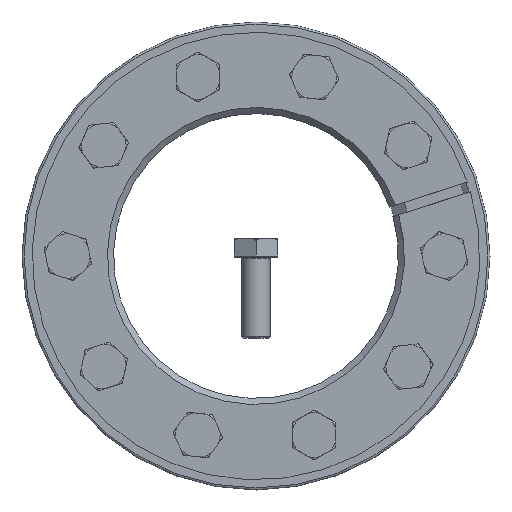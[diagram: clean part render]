
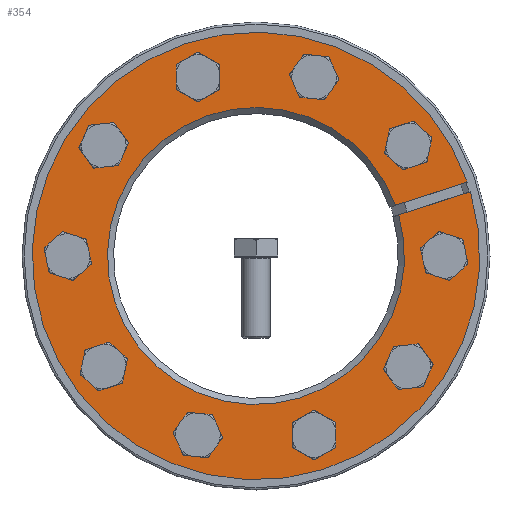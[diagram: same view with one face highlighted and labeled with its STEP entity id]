
A CAD part, front view. The second image highlights one B-rep face of the part: STEP entity #354.
In plain terms, the highlighted planar face has unit normal (0, -1, 0).
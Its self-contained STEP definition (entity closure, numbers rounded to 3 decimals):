
#354 = ADVANCED_FACE( '', ( #582, #583, #584, #585, #586, #587, #588, #589, #590, #591, #592 ), #593, .F. );
#582 = FACE_BOUND( '', #732, .T. );
#583 = FACE_BOUND( '', #733, .T. );
#584 = FACE_BOUND( '', #734, .T. );
#585 = FACE_BOUND( '', #735, .T. );
#586 = FACE_BOUND( '', #736, .T. );
#587 = FACE_OUTER_BOUND( '', #737, .T. );
#588 = FACE_BOUND( '', #738, .T. );
#589 = FACE_BOUND( '', #739, .T. );
#590 = FACE_BOUND( '', #740, .T. );
#591 = FACE_BOUND( '', #741, .T. );
#592 = FACE_BOUND( '', #742, .T. );
#593 = PLANE( '', #743 );
#732 = EDGE_LOOP( '', ( #991 ) );
#733 = EDGE_LOOP( '', ( #992 ) );
#734 = EDGE_LOOP( '', ( #993 ) );
#735 = EDGE_LOOP( '', ( #994 ) );
#736 = EDGE_LOOP( '', ( #995 ) );
#737 = EDGE_LOOP( '', ( #996, #997, #998, #999 ) );
#738 = EDGE_LOOP( '', ( #1000 ) );
#739 = EDGE_LOOP( '', ( #1001 ) );
#740 = EDGE_LOOP( '', ( #1002 ) );
#741 = EDGE_LOOP( '', ( #1003 ) );
#742 = EDGE_LOOP( '', ( #1004 ) );
#743 = AXIS2_PLACEMENT_3D( '', #1005, #1006, #1007 );
#991 = ORIENTED_EDGE( '', *, *, #1364, .T. );
#992 = ORIENTED_EDGE( '', *, *, #1365, .T. );
#993 = ORIENTED_EDGE( '', *, *, #1366, .T. );
#994 = ORIENTED_EDGE( '', *, *, #1367, .T. );
#995 = ORIENTED_EDGE( '', *, *, #1363, .T. );
#996 = ORIENTED_EDGE( '', *, *, #1346, .T. );
#997 = ORIENTED_EDGE( '', *, *, #1349, .T. );
#998 = ORIENTED_EDGE( '', *, *, #1357, .T. );
#999 = ORIENTED_EDGE( '', *, *, #1341, .F. );
#1000 = ORIENTED_EDGE( '', *, *, #1368, .T. );
#1001 = ORIENTED_EDGE( '', *, *, #1369, .T. );
#1002 = ORIENTED_EDGE( '', *, *, #1370, .T. );
#1003 = ORIENTED_EDGE( '', *, *, #1371, .T. );
#1004 = ORIENTED_EDGE( '', *, *, #1372, .T. );
#1005 = CARTESIAN_POINT( '', ( 0., 0., 115. ) );
#1006 = DIRECTION( '', ( 0., 1., 0. ) );
#1007 = DIRECTION( '', ( 0., 0., 1. ) );
#1341 = EDGE_CURVE( '', #1478, #1480, #1481, .T. );
#1346 = EDGE_CURVE( '', #1478, #1486, #1489, .T. );
#1349 = EDGE_CURVE( '', #1486, #1492, #1494, .T. );
#1357 = EDGE_CURVE( '', #1492, #1480, #1506, .T. );
#1363 = EDGE_CURVE( '', #1513, #1513, #1514, .T. );
#1364 = EDGE_CURVE( '', #1515, #1515, #1516, .T. );
#1365 = EDGE_CURVE( '', #1517, #1517, #1518, .T. );
#1366 = EDGE_CURVE( '', #1519, #1519, #1520, .T. );
#1367 = EDGE_CURVE( '', #1521, #1521, #1522, .T. );
#1368 = EDGE_CURVE( '', #1523, #1523, #1524, .T. );
#1369 = EDGE_CURVE( '', #1525, #1525, #1526, .T. );
#1370 = EDGE_CURVE( '', #1527, #1527, #1528, .T. );
#1371 = EDGE_CURVE( '', #1529, #1529, #1530, .T. );
#1372 = EDGE_CURVE( '', #1531, #1531, #1532, .T. );
#1478 = VERTEX_POINT( '', #1591 );
#1480 = VERTEX_POINT( '', #1596 );
#1481 = LINE( '', #1597, #1598 );
#1486 = VERTEX_POINT( '', #1608 );
#1489 = CIRCLE( '', #1614, 110. );
#1492 = VERTEX_POINT( '', #1617 );
#1494 = LINE( '', #1622, #1623 );
#1506 = CIRCLE( '', #1643, 73. );
#1513 = VERTEX_POINT( '', #1652 );
#1514 = CIRCLE( '', #1653, 7. );
#1515 = VERTEX_POINT( '', #1654 );
#1516 = CIRCLE( '', #1655, 7. );
#1517 = VERTEX_POINT( '', #1656 );
#1518 = CIRCLE( '', #1657, 7. );
#1519 = VERTEX_POINT( '', #1658 );
#1520 = CIRCLE( '', #1659, 7. );
#1521 = VERTEX_POINT( '', #1660 );
#1522 = CIRCLE( '', #1661, 7. );
#1523 = VERTEX_POINT( '', #1662 );
#1524 = CIRCLE( '', #1663, 7. );
#1525 = VERTEX_POINT( '', #1664 );
#1526 = CIRCLE( '', #1665, 7. );
#1527 = VERTEX_POINT( '', #1666 );
#1528 = CIRCLE( '', #1667, 7. );
#1529 = VERTEX_POINT( '', #1668 );
#1530 = CIRCLE( '', #1669, 7. );
#1531 = VERTEX_POINT( '', #1670 );
#1532 = CIRCLE( '', #1671, 7. );
#1591 = CARTESIAN_POINT( '', ( 103.817, 0., 36.361 ) );
#1596 = CARTESIAN_POINT( '', ( 68.614, 0., 24.923 ) );
#1597 = CARTESIAN_POINT( '', ( 103.844, 0., 36.37 ) );
#1598 = VECTOR( '', #1720, 1000. );
#1608 = CARTESIAN_POINT( '', ( 105.362, 0., 31.605 ) );
#1614 = AXIS2_PLACEMENT_3D( '', #1723, #1724, #1725 );
#1617 = CARTESIAN_POINT( '', ( 70.159, 0., 20.167 ) );
#1622 = CARTESIAN_POINT( '', ( 105.389, 0., 31.614 ) );
#1623 = VECTOR( '', #1729, 1000. );
#1643 = AXIS2_PLACEMENT_3D( '', #1738, #1739, #1740 );
#1652 = CARTESIAN_POINT( '', ( 92.5, 0., -7. ) );
#1653 = AXIS2_PLACEMENT_3D( '', #1752, #1753, #1754 );
#1654 = CARTESIAN_POINT( '', ( 21.927, 0., -90.136 ) );
#1655 = AXIS2_PLACEMENT_3D( '', #1755, #1756, #1757 );
#1656 = CARTESIAN_POINT( '', ( -78.949, 0., -48.707 ) );
#1657 = AXIS2_PLACEMENT_3D( '', #1758, #1759, #1760 );
#1658 = CARTESIAN_POINT( '', ( -70.72, 0., 60.033 ) );
#1659 = AXIS2_PLACEMENT_3D( '', #1761, #1762, #1763 );
#1660 = CARTESIAN_POINT( '', ( 35.241, 0., 85.81 ) );
#1661 = AXIS2_PLACEMENT_3D( '', #1764, #1765, #1766 );
#1662 = CARTESIAN_POINT( '', ( 78.949, 0., 48.707 ) );
#1663 = AXIS2_PLACEMENT_3D( '', #1767, #1768, #1769 );
#1664 = CARTESIAN_POINT( '', ( -21.927, 0., 90.136 ) );
#1665 = AXIS2_PLACEMENT_3D( '', #1770, #1771, #1772 );
#1666 = CARTESIAN_POINT( '', ( -92.5, 0., 7. ) );
#1667 = AXIS2_PLACEMENT_3D( '', #1773, #1774, #1775 );
#1668 = CARTESIAN_POINT( '', ( -35.241, 0., -85.81 ) );
#1669 = AXIS2_PLACEMENT_3D( '', #1776, #1777, #1778 );
#1670 = CARTESIAN_POINT( '', ( 70.72, 0., -60.033 ) );
#1671 = AXIS2_PLACEMENT_3D( '', #1779, #1780, #1781 );
#1720 = DIRECTION( '', ( -0.951, 0., -0.309 ) );
#1723 = CARTESIAN_POINT( '', ( 0., 0., 0. ) );
#1724 = DIRECTION( '', ( 0., -1., 0. ) );
#1725 = DIRECTION( '', ( 0., 0., -1. ) );
#1729 = DIRECTION( '', ( -0.951, 0., -0.309 ) );
#1738 = CARTESIAN_POINT( '', ( 0., 0., 0. ) );
#1739 = DIRECTION( '', ( 0., 1., 0. ) );
#1740 = DIRECTION( '', ( 0., 0., 1. ) );
#1752 = CARTESIAN_POINT( '', ( 92.5, 0., 0. ) );
#1753 = DIRECTION( '', ( 0., 1., 0. ) );
#1754 = DIRECTION( '', ( 0., 0., -1. ) );
#1755 = CARTESIAN_POINT( '', ( 28.584, 0., -87.973 ) );
#1756 = DIRECTION( '', ( 0., 1., 0. ) );
#1757 = DIRECTION( '', ( -0.951, 0., -0.309 ) );
#1758 = CARTESIAN_POINT( '', ( -74.834, 0., -54.37 ) );
#1759 = DIRECTION( '', ( 0., 1., 0. ) );
#1760 = DIRECTION( '', ( -0.588, 0., 0.809 ) );
#1761 = CARTESIAN_POINT( '', ( -74.834, 0., 54.37 ) );
#1762 = DIRECTION( '', ( 0., 1., 0. ) );
#1763 = DIRECTION( '', ( 0.588, 0., 0.809 ) );
#1764 = CARTESIAN_POINT( '', ( 28.584, 0., 87.973 ) );
#1765 = DIRECTION( '', ( 0., 1., 0. ) );
#1766 = DIRECTION( '', ( 0.951, 0., -0.309 ) );
#1767 = CARTESIAN_POINT( '', ( 74.834, 0., 54.37 ) );
#1768 = DIRECTION( '', ( 0., 1., 0. ) );
#1769 = DIRECTION( '', ( 0.588, 0., -0.809 ) );
#1770 = CARTESIAN_POINT( '', ( -28.584, 0., 87.973 ) );
#1771 = DIRECTION( '', ( 0., 1., 0. ) );
#1772 = DIRECTION( '', ( 0.951, 0., 0.309 ) );
#1773 = CARTESIAN_POINT( '', ( -92.5, 0., 0. ) );
#1774 = DIRECTION( '', ( 0., 1., 0. ) );
#1775 = DIRECTION( '', ( 0., 0., 1. ) );
#1776 = CARTESIAN_POINT( '', ( -28.584, 0., -87.973 ) );
#1777 = DIRECTION( '', ( 0., 1., 0. ) );
#1778 = DIRECTION( '', ( -0.951, 0., 0.309 ) );
#1779 = CARTESIAN_POINT( '', ( 74.834, 0., -54.37 ) );
#1780 = DIRECTION( '', ( 0., 1., 0. ) );
#1781 = DIRECTION( '', ( -0.588, 0., -0.809 ) );
